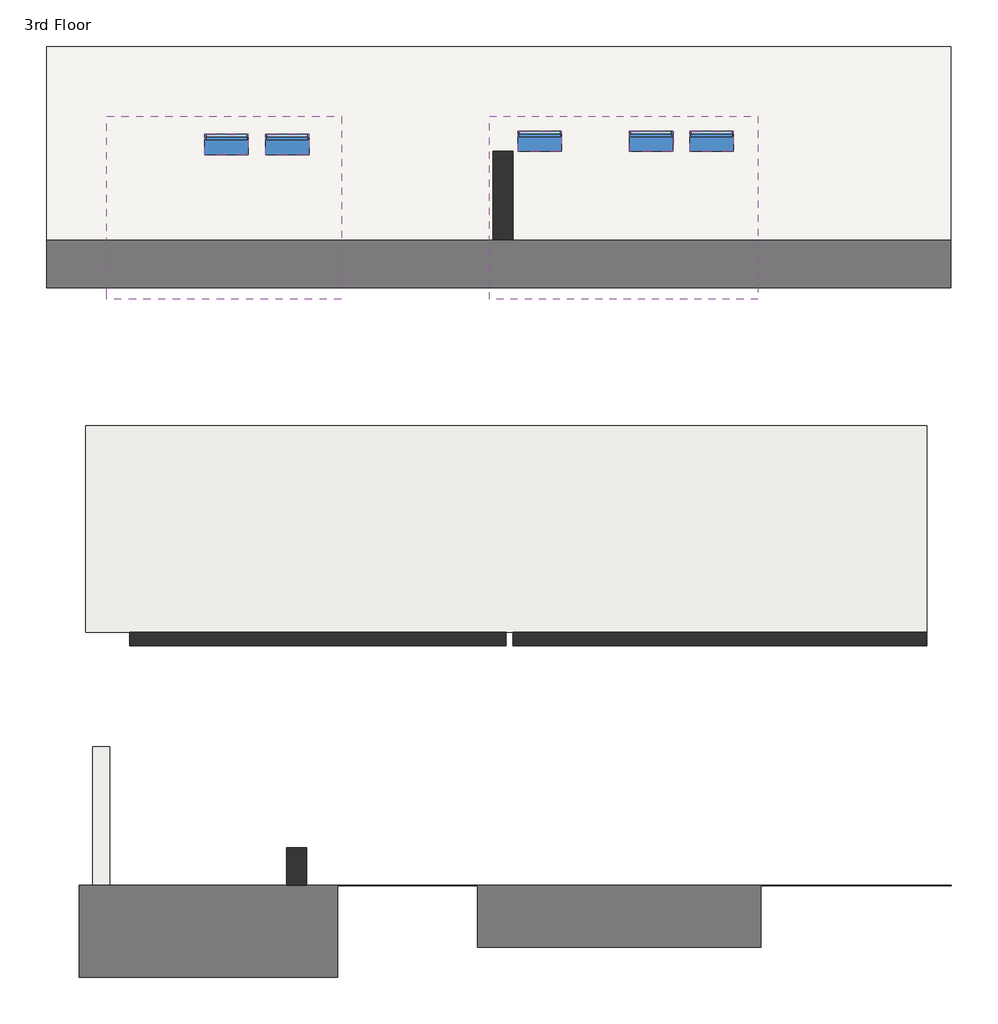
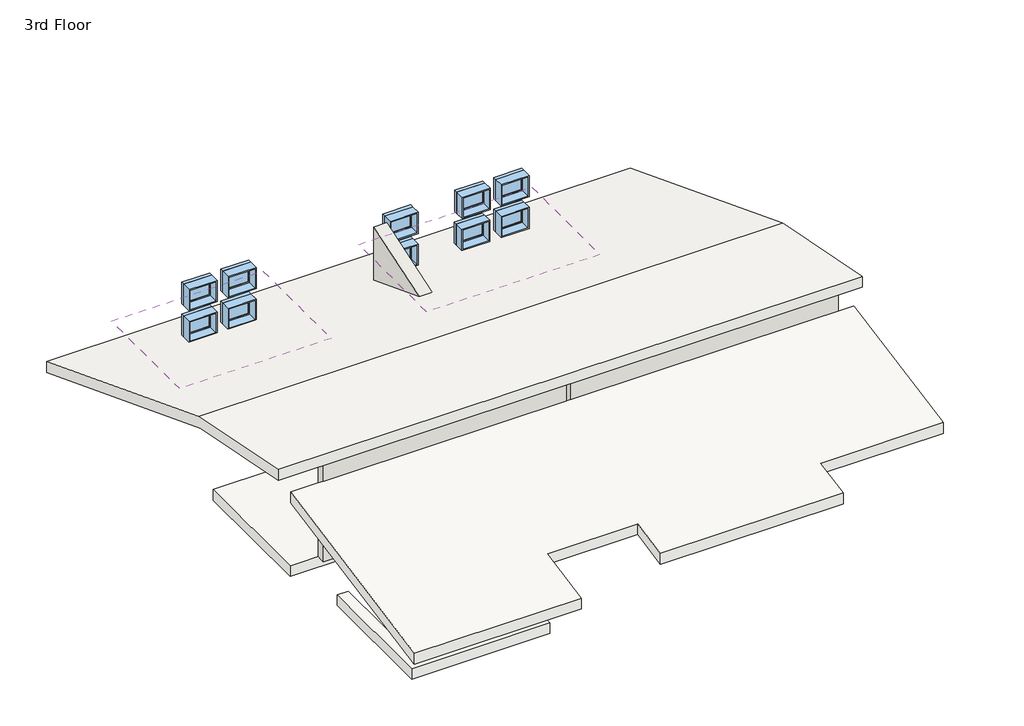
# One storey: 10 windows, 5 roofs, 5 walls, 1 slab.
"""IFC4 building model written with IfcOpenShell, lengths in millimetres."""

from ifc_helpers import new_model, si_unit, frame, origin, place, context, project, spatial, polyline, outline, extrude, faceted_brep, transform, mapped, element, save
from components import window_b6feeaa8

model = new_model("IFC4")

# Units and contexts
model_context = context("Model", 3, world=origin())
ifc_project = project(units=[si_unit("LENGTHUNIT", "METRE", prefix="MILLI")], contexts=[model_context])

# Site, building, storey
site = spatial("IfcSite", under=ifc_project)
building = spatial("IfcBuilding", under=site)
storey = spatial("IfcBuildingStorey", under=building, Name="3rd Floor", Elevation=6705.6)

# Roofs
placement = place(None, origin())
element("IfcRoof", 1, ObjectType="Generic - 12\"", at=placement, inside=storey, context=model_context, shape_type="Brep", body=[
    faceted_brep([(-9197.9696781, -2238.8436915, 9015.8705839), (-9197.9696781, -8063.7936915, 7907.3173322), (-4658.1321781, -8063.7936904, 7907.3173324), (-4658.1321781, -6456.7796456, 8213.1501112), (-2199.0800891, -6456.7796456, 8213.1501112), (-2199.0800891, -7535.5936915, 8007.8397105), (2779.4428219, -7535.5936915, 8007.8397105), (2779.4428219, -6456.7796456, 8213.1501112), (6123.3410555, -6456.7796456, 8213.1501112), (6123.3410555, -2238.8436915, 9015.8705839), (-9197.9696781, -2238.8436915, 8705.6), (6123.3410555, -2238.8436915, 8705.6), (6123.3410555, -6456.7796456, 7902.8795273), (2779.4428219, -6456.7796456, 7902.8795273), (2779.4428219, -7535.5936915, 7697.5691266), (-2199.0800891, -7535.5936915, 7697.5691266), (-2199.0800891, -6456.7796456, 7902.8795273), (-4658.1321781, -6456.7796456, 7902.8795273), (-4658.1321781, -8063.7936904, 7597.0467485), (-9197.9696781, -8063.7936915, 7597.0467483)], [[[0, 1, 2, 3, 4, 5, 6, 7, 8, 9]], [[10, 11, 12, 13, 14, 15, 16, 17, 18, 19]], [[1, 0, 10, 19]], [[2, 1, 19, 18]], [[3, 2, 18, 17]], [[4, 3, 17, 16]], [[5, 4, 16, 15]], [[6, 5, 15, 14]], [[7, 6, 14, 13]], [[8, 7, 13, 12]], [[9, 8, 12, 11]], [[0, 9, 11, 10]]]),
])
element("IfcRoof", 2, ObjectType="Generic - 12\"", at=placement, inside=storey, context=model_context, shape_type="SweptSolid", body=[
    extrude(outline(polyline([(-8657.1071781, -4012.0811915), (-8657.1071781, -7202.1561915), (-5204.2321781, -7202.1561915), (-5204.2321781, -7517.6936915), (-8963.0196781, -7517.6936915), (-8963.0196781, -4012.0811915), (-8657.1071781, -4012.0811915)])), frame((0.0, 0.0, 6748.0), z_axis=(0.0, 0.0, 1.0), x_axis=(1.0, 0.0, 0.0)), (0.0, 0.0, 1.0), 304.8),
])
element("IfcRoof", 3, ObjectType="Generic - 12\"", at=placement, inside=storey, context=model_context, shape_type="SweptSolid", body=[
    extrude(outline(polyline([(-2629.6250799, 10101.1644135), (1108.2563085, 9363.368557), (8286.1172625, 6600.0924272), (8286.1172625, 6273.4862476), (1023.3611207, 9069.4446552), (-2629.6250799, 9790.4836082), (-2629.6250799, 10101.1644135)])), frame((-9771.0723401, 0.0, 0.0), z_axis=(1.0, 0.0, 0.0), x_axis=(0.0, 1.0, 0.0)), (0.0, 0.0, 1.0), 15891.2383955),
])
element("IfcRoof", 4, ObjectType="Generic - 12\"", at=placement, inside=storey, context=model_context, shape_type="SweptSolid", body=[
    extrude(outline(polyline([(3849.6731314, 8307.9995944), (7058.9083119, 9363.2548803), (7058.9083119, 9042.4), (3849.6731314, 7987.1447141), (3849.6731314, 8307.9995944)])), frame((-1987.7860601, 0.0, 0.0), z_axis=(1.0, 0.0, 0.0), x_axis=(0.0, 1.0, 0.0)), (0.0, 0.0, 1.0), 4715.641382),
])
element("IfcRoof", 5, ObjectType="Generic - 12\"", at=placement, inside=storey, context=model_context, shape_type="SweptSolid", body=[
    extrude(outline(polyline([(3849.6731314, 8307.9995944), (7058.9083119, 9363.2548803), (7058.9083119, 9042.4), (4299.1816718, 8134.9513524), (3849.6731314, 8307.9995944)])), frame((-8713.8821781, 0.0, 0.0), z_axis=(1.0, 0.0, 0.0), x_axis=(0.0, 1.0, 0.0)), (0.0, 0.0, 1.0), 4124.183618),
])

# Slab
element("IfcSlab", 6, ObjectType="Generic - 12\"", at=placement, inside=storey, context=model_context, shape_type="SweptSolid", body=[
    extrude(outline(polyline([(-9080.4946781, -1997.5436915), (-9080.4946781, 1625.1313085), (5698.2155789, 1625.1313085), (5698.2155789, -1997.5436915), (-9080.4946781, -1997.5436915)])), frame((0.0, 0.0, 6400.8), z_axis=(0.0, 0.0, 1.0), x_axis=(1.0, 0.0, 0.0)), (0.0, 0.0, 1.0), 304.8),
])

# Walls
element("IfcWall", 7, ObjectType="Exterior - Brick", at=placement, inside=storey, context=model_context, shape_type="Brep", body=[
    faceted_brep([(-8664.6696781, -7206.5436915, 6705.6), (-5204.2321781, -7206.5436915, 6705.6), (-5204.2321781, -7206.5436915, 7760.1910285), (-8664.6696781, -7206.5436915, 7760.1910285), (-8312.2446781, -6854.1186915, 6705.6), (-8312.2446781, -6854.1186915, 7827.2614548), (-5553.4821781, -6854.1186915, 7827.2614548), (-5204.2321781, -6854.1186915, 7827.2614548), (-5204.2321781, -6854.1186915, 6705.6), (-5553.4821781, -6854.1186915, 6705.6)], [[[0, 1, 2, 3]], [[4, 5, 6, 7, 8, 9]], [[1, 0, 4, 9, 8]], [[0, 3, 5, 4]], [[2, 1, 8, 7]], [[3, 2, 7, 6, 5]]]),
])
element("IfcWall", 8, ObjectType="Exterior - Brick", at=placement, inside=storey, context=model_context, shape_type="SweptSolid", body=[
    extrude(outline(polyline([(6447.0188085, 7308.0940019), (4299.1816718, 8134.9513524), (6447.0188085, 8841.1995281), (6447.0188085, 7308.0940019)])), frame((-1928.5446781, 0.0, 0.0), z_axis=(1.0, 0.0, 0.0), x_axis=(0.0, 1.0, 0.0)), (0.0, 0.0, 1.0), 352.425),
])
element("IfcWall", 9, ObjectType="Exterior - Brick", at=placement, inside=storey, context=model_context, shape_type="Brep", body=[
    faceted_brep([(-5201.0571781, -6854.1186915, 6705.6), (-5201.0571781, -5785.7311915, 6705.6), (-5201.0571781, -5785.7311915, 8030.587567), (-5201.0571781, -6854.1186915, 7827.2614548), (-5553.4821781, -6854.1186915, 6705.6), (-5553.4821781, -6854.1186915, 7827.2614548), (-5553.4821781, -5785.7311915, 8030.587567), (-5553.4821781, -5785.7311915, 6705.6), (-5204.2321781, -6854.1186915, 6705.6), (-5204.2321781, -6854.1186915, 7827.2614548)], [[[0, 1, 2, 3]], [[4, 5, 6, 7]], [[1, 0, 8, 4, 7]], [[2, 1, 7, 6]], [[0, 3, 9, 5, 4, 8]], [[3, 2, 6, 5, 9]]]),
])
element("IfcWall", 10, ObjectType="Exterior - Stucco", at=placement, inside=storey, context=model_context, shape_type="Brep", body=[
    faceted_brep([(-8312.2446781, -2238.8436915, 6705.6), (-1699.9446781, -2238.8436915, 6705.6), (-1699.9446781, -2238.8436915, 8705.6), (-1699.9446781, -2238.8436915, 9713.3498366), (-8312.2446781, -2238.8436915, 9713.3498366), (-8312.2446781, -1997.5436915, 6705.6), (-8312.2446781, -1997.5436915, 9665.7212145), (-1699.9446781, -1997.5436915, 9665.7212145), (-1699.9446781, -1997.5436915, 6705.6), (-8312.2446781, -2121.3686915, 6705.6)], [[[0, 1, 2, 3, 4]], [[5, 6, 7, 8]], [[1, 0, 9, 5, 8]], [[0, 4, 6, 5, 9]], [[3, 2, 1, 8, 7]], [[4, 3, 7, 6]]]),
])
element("IfcWall", 11, ObjectType="Exterior - Stucco", at=placement, inside=storey, context=model_context, shape_type="Brep", body=[
    faceted_brep([(-1576.1196781, -2238.8436915, 6705.6), (5698.2155789, -2238.8436915, 6705.6), (5698.2155789, -2238.8436915, 8705.6), (5698.2155789, -2238.8436915, 9713.3498366), (-1576.1196781, -2238.8436915, 9713.3498366), (-1576.1196781, -2238.8436915, 8705.6), (-1576.1196781, -1997.5436915, 6705.6), (-1576.1196781, -1997.5436915, 9665.7212145), (5698.2155789, -1997.5436915, 9665.7212145), (5698.2155789, -1997.5436915, 6705.6)], [[[0, 1, 2, 3, 4, 5]], [[6, 7, 8, 9]], [[1, 0, 6, 9]], [[0, 5, 4, 7, 6]], [[3, 2, 1, 9, 8]], [[4, 3, 8, 7]]]),
])

# Windows
window_shape = window_b6feeaa8(model_context)
element("IfcWindow", 12, ObjectType="Fixed : 24\" x 30\"", at=placement, inside=storey, context=model_context, shape_type="MappedRepresentation", body=[
    mapped(window_shape, transform((-5503.1821781, 6565.7063085, 6400.8), x_axis=(1.0, 0.0, 0.0), y_axis=(0.0, 1.0, 0.0), z_axis=(0.0, 0.0, 1.0))),
])
element("IfcWindow", 13, ObjectType="Fixed : 24\" x 30\"", at=placement, inside=storey, context=model_context, shape_type="MappedRepresentation", body=[
    mapped(window_shape, transform((-6569.9821781, 6565.7063085, 6400.8), x_axis=(1.0, 0.0, 0.0), y_axis=(0.0, 1.0, 0.0), z_axis=(0.0, 0.0, 1.0))),
])
element("IfcWindow", 14, ObjectType="Fixed : 24\" x 30\"", at=placement, inside=storey, context=model_context, shape_type="MappedRepresentation", body=[
    mapped(window_shape, transform((-5503.1821781, 6565.7063085, 7315.2), x_axis=(1.0, 0.0, 0.0), y_axis=(0.0, 1.0, 0.0), z_axis=(0.0, 0.0, 1.0))),
])
element("IfcWindow", 15, ObjectType="Fixed : 24\" x 30\"", at=placement, inside=storey, context=model_context, shape_type="MappedRepresentation", body=[
    mapped(window_shape, transform((-6569.9821781, 6565.7063085, 7315.2), x_axis=(1.0, 0.0, 0.0), y_axis=(0.0, 1.0, 0.0), z_axis=(0.0, 0.0, 1.0))),
])
element("IfcWindow", 16, ObjectType="Fixed : 24\" x 30\"", at=placement, inside=storey, context=model_context, shape_type="MappedRepresentation", body=[
    mapped(window_shape, transform((889.1553219, 6623.2313085, 6400.8), x_axis=(1.0, 0.0, 0.0), y_axis=(0.0, 1.0, 0.0), z_axis=(0.0, 0.0, 1.0))),
])
element("IfcWindow", 17, ObjectType="Fixed : 24\" x 30\"", at=placement, inside=storey, context=model_context, shape_type="MappedRepresentation", body=[
    mapped(window_shape, transform((1955.9553219, 6623.2313085, 7315.2), x_axis=(1.0, 0.0, 0.0), y_axis=(0.0, 1.0, 0.0), z_axis=(0.0, 0.0, 1.0))),
])
element("IfcWindow", 18, ObjectType="Fixed : 24\" x 30\"", at=placement, inside=storey, context=model_context, shape_type="MappedRepresentation", body=[
    mapped(window_shape, transform((-1064.6446781, 6623.2313085, 7315.2), x_axis=(1.0, 0.0, 0.0), y_axis=(0.0, 1.0, 0.0), z_axis=(0.0, 0.0, 1.0))),
])
element("IfcWindow", 19, ObjectType="Fixed : 24\" x 30\"", at=placement, inside=storey, context=model_context, shape_type="MappedRepresentation", body=[
    mapped(window_shape, transform((-1064.6446781, 6623.2313085, 6400.8), x_axis=(1.0, 0.0, 0.0), y_axis=(0.0, 1.0, 0.0), z_axis=(0.0, 0.0, 1.0))),
])
element("IfcWindow", 20, ObjectType="Fixed : 24\" x 30\"", at=placement, inside=storey, context=model_context, shape_type="MappedRepresentation", body=[
    mapped(window_shape, transform((1955.9553219, 6623.2313085, 6400.8), x_axis=(1.0, 0.0, 0.0), y_axis=(0.0, 1.0, 0.0), z_axis=(0.0, 0.0, 1.0))),
])
element("IfcWindow", 21, ObjectType="Fixed : 24\" x 30\"", at=placement, inside=storey, context=model_context, shape_type="MappedRepresentation", body=[
    mapped(window_shape, transform((903.5553219, 6623.2313085, 7315.2), x_axis=(1.0, 0.0, 0.0), y_axis=(0.0, 1.0, 0.0), z_axis=(0.0, 0.0, 1.0))),
])

save(model, "model.ifc")
